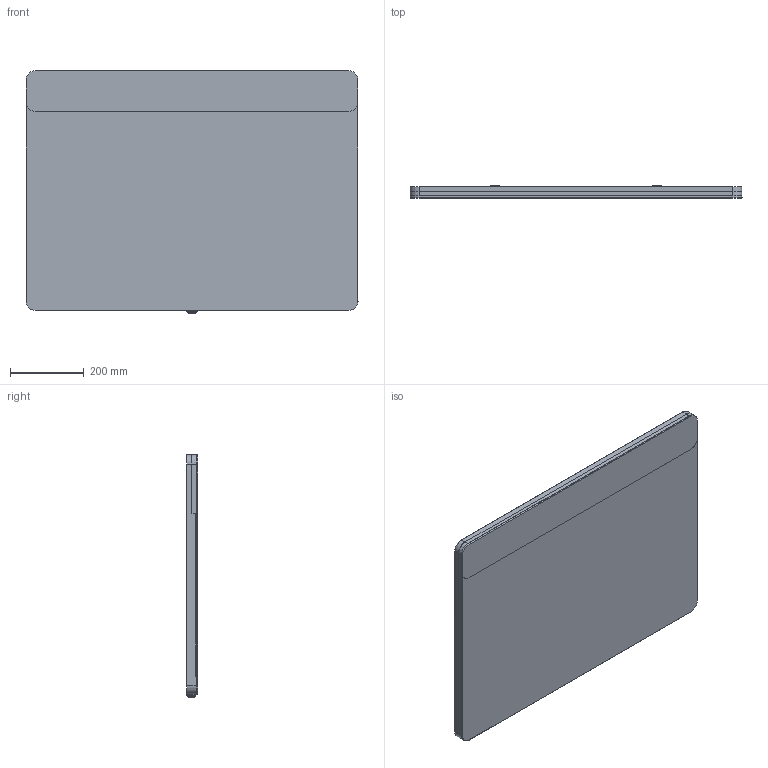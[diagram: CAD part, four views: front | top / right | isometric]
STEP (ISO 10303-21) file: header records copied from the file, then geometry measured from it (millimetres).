
FILE_DESCRIPTION(/* description */ ('STEP AP214'),/* implementation_level */ '2;1');
FILE_NAME(/* name */ 'C:\Planerdaten\Export PLA\819200000\stp\819200000.stp',/* time_stamp */ '2020-03-06T07:57:42+01:00',/* author */ (''),/* organization */ (''),/* preprocessor_version */ 'ST-DEVELOPER v16.13',/* originating_system */ 'Autodesk Inventor 2018',/* authorisation */ '');
FILE_SCHEMA (('AUTOMOTIVE_DESIGN { 1 0 10303 214 3 1 1 }'));
Length unit declared in the file: millimetre
Products named in the file (11): LiSpgl Ge+Opt B90 Bel-oben; RAMA ZEWNÊT  LUSTRA 900X650 (1); SZYBA-LUS-900x650-M; RAM-WEW-LUS-900x650; PPR-PRO-25x20x850-AL; PPR-PRO-25x20x375-AL; zaslepka do profilu 25x20; HAK MONTA¯OWY; WYL-WAND-19-LED-GR (Wszystkie elementy Content Center wy³¹czo
ne); WYL-WAND-19-LED-GR; JIS B 1181 normal. Klasa 3 - Metryczny Klasa 3 normal. M16
Assembly tree (15 placements, depth 3):
  LiSpgl Ge+Opt B90 Bel-oben
    RAMA ZEWNÊT  LUSTRA 900X650 (1)
    SZYBA-LUS-900x650-M
    RAM-WEW-LUS-900x650
      PPR-PRO-25x20x850-AL
      PPR-PRO-25x20x375-AL  x2
      zaslepka do profilu 25x20  x4
    HAK MONTA¯OWY  x2
    WYL-WAND-19-LED-GR (Wszystkie elementy Content Center wy³¹czo
ne)
      WYL-WAND-19-LED-GR
      JIS B 1181 normal. Klasa 3 - Metryczny Klasa 3 normal. M16
Bounding box: 900 x 32.01 x 657.5 mm (x, y, z)
Volume: 3405560.1 mm3; surface area: 1706363.5 mm2
Topology: 13 solids, 13 shells, 329 faces, 827 edges, 518 vertices
Faces by surface type: plane 204, cylinder 92, cone 17, sphere 16
Full cylindrical faces by diameter (mm): 4.8 x2, 6 x2, 13 x1, 15 x1, 15.5 x1, 19 x2, 19.02 x2, 22 x1
Entity records: 7924 total; most frequent: CARTESIAN_POINT 1366, DIRECTION 1306, ORIENTED_EDGE 1254, EDGE_CURVE 627, LINE 452, VECTOR 452, AXIS2_PLACEMENT_3D 427, VERTEX_POINT 415
